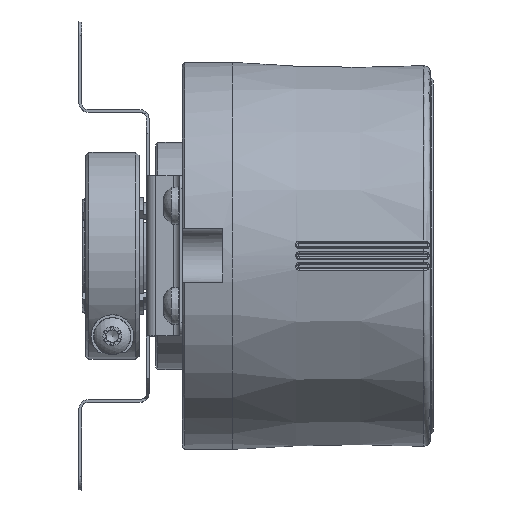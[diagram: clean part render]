
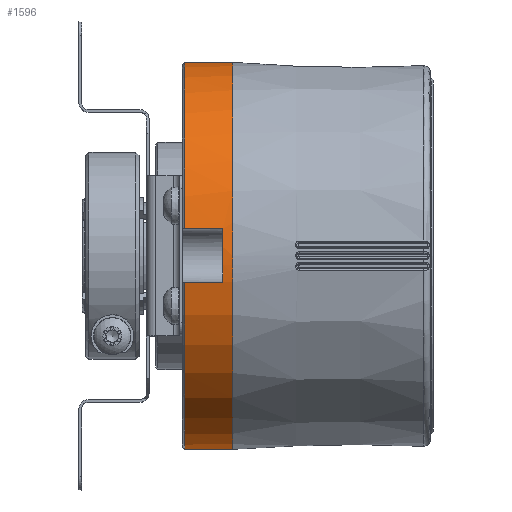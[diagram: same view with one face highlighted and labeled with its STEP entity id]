
A CAD part, top view. The second image highlights one B-rep face of the part: STEP entity #1596.
In plain terms, the highlighted cylindrical face has radius 29 mm (diameter 58 mm), a full revolution.
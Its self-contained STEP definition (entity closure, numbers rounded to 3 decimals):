
#1596 = ADVANCED_FACE( '', ( #3918, #3919 ), #3920, .T. );
#3918 = FACE_OUTER_BOUND( '', #10505, .T. );
#3919 = FACE_OUTER_BOUND( '', #10506, .T. );
#3920 = CYLINDRICAL_SURFACE( '', #10507, 29. );
#10505 = EDGE_LOOP( '', ( #21361, #21362, #21363, #21364 ) );
#10506 = EDGE_LOOP( '', ( #21365 ) );
#10507 = AXIS2_PLACEMENT_3D( '', #21366, #21367, #21368 );
#21361 = ORIENTED_EDGE( '', *, *, #27957, .T. );
#21362 = ORIENTED_EDGE( '', *, *, #28553, .F. );
#21363 = ORIENTED_EDGE( '', *, *, #27661, .T. );
#21364 = ORIENTED_EDGE( '', *, *, #28554, .T. );
#21365 = ORIENTED_EDGE( '', *, *, #28555, .F. );
#21366 = CARTESIAN_POINT( '', ( 18.9, 0., 0. ) );
#21367 = DIRECTION( '', ( 1., 0., 0. ) );
#21368 = DIRECTION( '', ( 0., -0.866, 0.5 ) );
#27661 = EDGE_CURVE( '', #31280, #31286, #31288, .T. );
#27957 = EDGE_CURVE( '', #31789, #31786, #31790, .T. );
#28553 = EDGE_CURVE( '', #31280, #31786, #32736, .T. );
#28554 = EDGE_CURVE( '', #31286, #31789, #32737, .T. );
#28555 = EDGE_CURVE( '', #32738, #32738, #32739, .T. );
#31280 = VERTEX_POINT( '', #37092 );
#31286 = VERTEX_POINT( '', #37100 );
#31288 = LINE( '', #37103, #37104 );
#31786 = VERTEX_POINT( '', #38219 );
#31789 = VERTEX_POINT( '', #38222 );
#31790 = LINE( '', #38223, #38224 );
#32736 = CIRCLE( '', #40532, 29. );
#32737 = CIRCLE( '', #40533, 29. );
#32738 = VERTEX_POINT( '', #40534 );
#32739 = CIRCLE( '', #40535, 29. );
#37092 = CARTESIAN_POINT( '', ( 15.3, 4., 28.723 ) );
#37100 = CARTESIAN_POINT( '', ( 21., 4., 28.723 ) );
#37103 = CARTESIAN_POINT( '', ( 18.15, 4., 28.723 ) );
#37104 = VECTOR( '', #47154, 1000. );
#38219 = CARTESIAN_POINT( '', ( 15.3, -4., 28.723 ) );
#38222 = CARTESIAN_POINT( '', ( 21., -4., 28.723 ) );
#38223 = CARTESIAN_POINT( '', ( 18.15, -4., 28.723 ) );
#38224 = VECTOR( '', #47540, 1000. );
#40532 = AXIS2_PLACEMENT_3D( '', #48277, #48278, #48279 );
#40533 = AXIS2_PLACEMENT_3D( '', #48280, #48281, #48282 );
#40534 = CARTESIAN_POINT( '', ( 22.5, 0., 29. ) );
#40535 = AXIS2_PLACEMENT_3D( '', #48283, #48284, #48285 );
#47154 = DIRECTION( '', ( 1., 0., 0. ) );
#47540 = DIRECTION( '', ( -1., 0., 0. ) );
#48277 = CARTESIAN_POINT( '', ( 15.3, 0., 0. ) );
#48278 = DIRECTION( '', ( -1., 0., 0. ) );
#48279 = DIRECTION( '', ( 0., -0.866, 0.5 ) );
#48280 = CARTESIAN_POINT( '', ( 21., 0., 0. ) );
#48281 = DIRECTION( '', ( 1., 0., 0. ) );
#48282 = DIRECTION( '', ( 0., -0.866, 0.5 ) );
#48283 = CARTESIAN_POINT( '', ( 22.5, 0., 0. ) );
#48284 = DIRECTION( '', ( 1., 0., 0. ) );
#48285 = DIRECTION( '', ( 0., 0., 1. ) );
